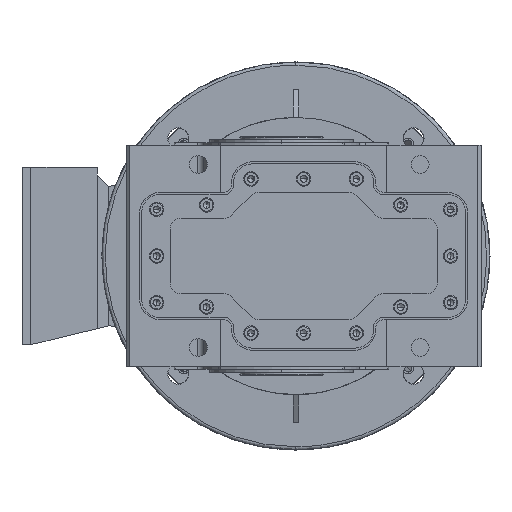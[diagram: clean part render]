
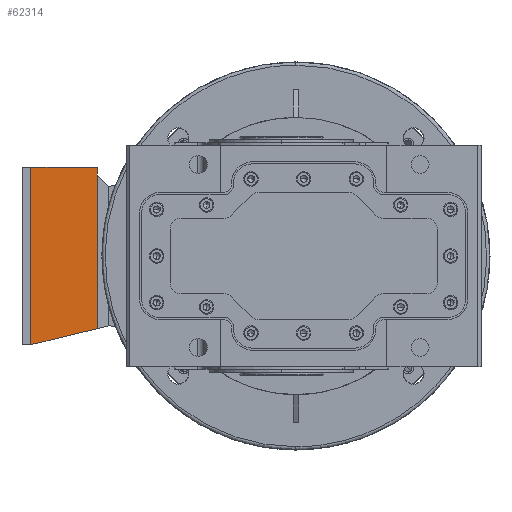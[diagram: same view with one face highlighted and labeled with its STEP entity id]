
A CAD part, left-side view. The second image highlights one B-rep face of the part: STEP entity #62314.
In plain terms, the highlighted planar face has unit normal (-1, 0, 0) as drawn and (0, 0, 1) by its records, which use the part's own axes.
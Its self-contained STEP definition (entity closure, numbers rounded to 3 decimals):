
#5869 = ORIENTED_EDGE ( 'NONE', *, *, #108901, .F. ) ;
#5979 = ORIENTED_EDGE ( 'NONE', *, *, #108904, .F. ) ;
#6089 = ORIENTED_EDGE ( 'NONE', *, *, #109393, .T. ) ;
#6162 = ORIENTED_EDGE ( 'NONE', *, *, #108827, .F. ) ;
#6164 = ORIENTED_EDGE ( 'NONE', *, *, #109408, .T. ) ;
#18266 = EDGE_LOOP ( 'NONE', ( #6162, #6089, #6164, #5979, #5869 ) ) ;
#24213 = DIRECTION ( 'NONE',  ( 0.236, -0.972, 0. ) ) ;
#24219 = CARTESIAN_POINT ( 'NONE',  ( -63., 0., 150. ) ) ;
#25417 = CARTESIAN_POINT ( 'NONE',  ( -80., 70., 150. ) ) ;
#25449 = DIRECTION ( 'NONE',  ( -1., 0., 0. ) ) ;
#31686 = VECTOR ( 'NONE', #36450, 1000. ) ;
#31746 = LINE ( 'NONE', #36577, #31786 ) ;
#31786 = VECTOR ( 'NONE', #36592, 1000. ) ;
#31808 = VECTOR ( 'NONE', #36593, 1000. ) ;
#31816 = LINE ( 'NONE', #36578, #31808 ) ;
#32264 = LINE ( 'NONE', #25417, #32324 ) ;
#32311 = LINE ( 'NONE', #24219, #32355 ) ;
#32324 = VECTOR ( 'NONE', #25449, 1000. ) ;
#32355 = VECTOR ( 'NONE', #24213, 1000. ) ;
#33682 = LINE ( 'NONE', #36468, #31686 ) ;
#36450 = DIRECTION ( 'NONE',  ( 0., -1., 0. ) ) ;
#36468 = CARTESIAN_POINT ( 'NONE',  ( 80., 70., 150. ) ) ;
#36577 = CARTESIAN_POINT ( 'NONE',  ( -80., 10., 150. ) ) ;
#36578 = CARTESIAN_POINT ( 'NONE',  ( -80., 10., 150. ) ) ;
#36592 = DIRECTION ( 'NONE',  ( -1., 0., 0. ) ) ;
#36593 = DIRECTION ( 'NONE',  ( -1., 0., 0. ) ) ;
#61601 = DIRECTION ( 'NONE',  ( -1., 0., 0. ) ) ;
#61618 = CARTESIAN_POINT ( 'NONE',  ( -80., 70., 150. ) ) ;
#61629 = PLANE ( 'NONE',  #100884 ) ;
#61630 = DIRECTION ( 'NONE',  ( 0., 0., -1. ) ) ;
#62314 = ADVANCED_FACE ( 'NONE', ( #68429 ), #61629, .F. ) ;
#66490 = CARTESIAN_POINT ( 'NONE',  ( -65.429, 10., 150. ) ) ;
#66547 = CARTESIAN_POINT ( 'NONE',  ( 73., 10., 150. ) ) ;
#66552 = CARTESIAN_POINT ( 'NONE',  ( 80., 10., 150. ) ) ;
#66553 = CARTESIAN_POINT ( 'NONE',  ( -80., 70., 150. ) ) ;
#66577 = CARTESIAN_POINT ( 'NONE',  ( 80., 70., 150. ) ) ;
#68429 = FACE_OUTER_BOUND ( 'NONE', #18266, .T. ) ;
#75975 = VERTEX_POINT ( 'NONE', #66490 ) ;
#76031 = VERTEX_POINT ( 'NONE', #66577 ) ;
#76035 = VERTEX_POINT ( 'NONE', #66552 ) ;
#76045 = VERTEX_POINT ( 'NONE', #66553 ) ;
#76051 = VERTEX_POINT ( 'NONE', #66547 ) ;
#100884 = AXIS2_PLACEMENT_3D ( 'NONE', #61618, #61630, #61601 ) ;
#108827 = EDGE_CURVE ( 'NONE', #76031, #76035, #33682, .T. ) ;
#108901 = EDGE_CURVE ( 'NONE', #76035, #76051, #31746, .T. ) ;
#108904 = EDGE_CURVE ( 'NONE', #76051, #75975, #31816, .T. ) ;
#109393 = EDGE_CURVE ( 'NONE', #76031, #76045, #32264, .T. ) ;
#109408 = EDGE_CURVE ( 'NONE', #76045, #75975, #32311, .T. ) ;
